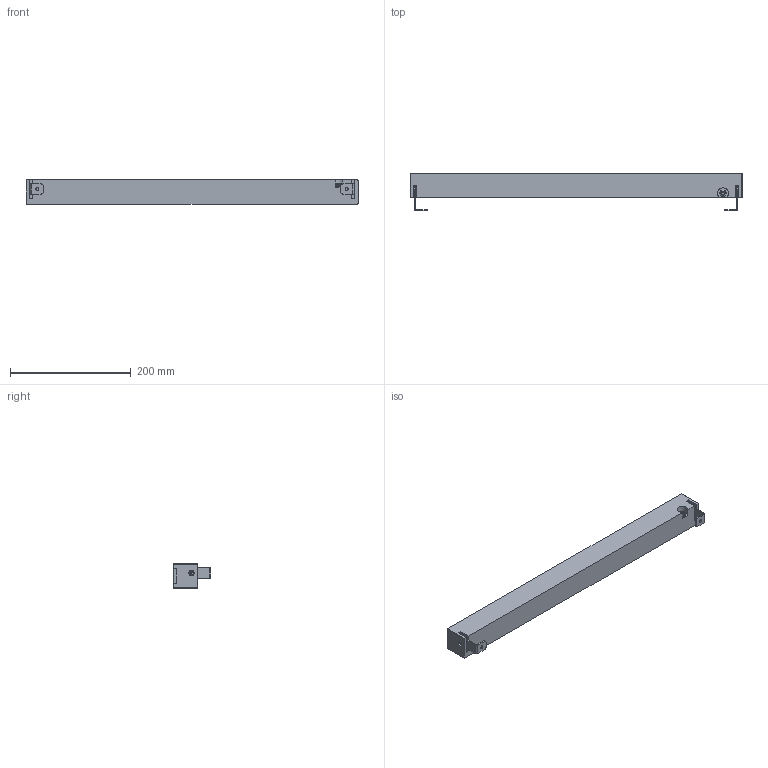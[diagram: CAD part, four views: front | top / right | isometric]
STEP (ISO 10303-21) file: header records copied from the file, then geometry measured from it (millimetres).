
FILE_DESCRIPTION(/* description */ (''),/* implementation_level */ '2;1');
FILE_NAME(/* name */ 'C:/Elena/ILM/02 3D/Elvira/Pubblico/Elvira 60.step',/* time_stamp */ '2020-06-05T12:12:21+02:00',/* author */ (''),/* organization */ (''),/* preprocessor_version */ 'ST-DEVELOPER v18.1',/* originating_system */ 'Autodesk Translation Framework v9.3.0.1241',/* authorisation */ '');
FILE_SCHEMA (('AUTOMOTIVE_DESIGN { 1 0 10303 214 3 1 1 }'));
Length unit declared in the file: millimetre
Products named in the file (1): (Unsaved)
Bounding box: 550 x 62.75 x 40 mm (x, y, z)
Volume: 873191 mm3; surface area: 150361.1 mm2
Topology: 7 solids, 7 shells, 148 faces, 353 edges, 230 vertices
Faces by surface type: plane 93, cylinder 50, cone 5
Full cylindrical faces by diameter (mm): 3 x3, 5 x7, 5.5 x2, 9 x2, 10 x1, 10.127 x1
Entity records: 4393 total; most frequent: DIRECTION 767, CARTESIAN_POINT 765, ORIENTED_EDGE 706, EDGE_CURVE 353, AXIS2_PLACEMENT_3D 266, LINE 235, VECTOR 235, VERTEX_POINT 230
